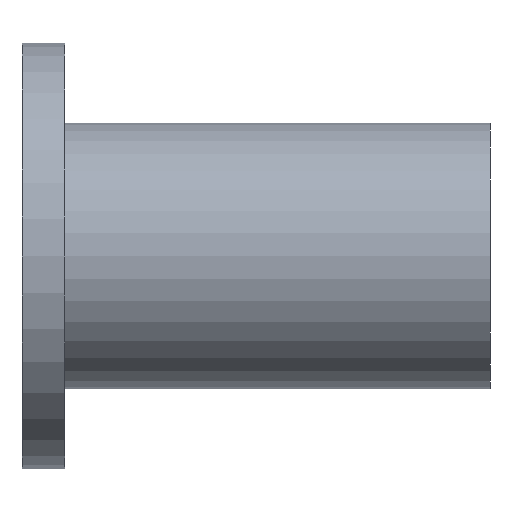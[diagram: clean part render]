
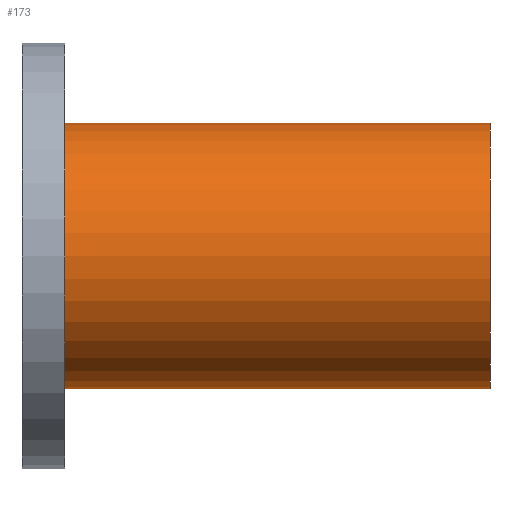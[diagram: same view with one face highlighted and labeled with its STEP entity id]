
A CAD part, left-side view. The second image highlights one B-rep face of the part: STEP entity #173.
In plain terms, the highlighted cylindrical face has radius 2.5 mm (diameter 5 mm), a partial arc.
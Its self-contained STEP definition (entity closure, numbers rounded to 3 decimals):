
#18 = VECTOR ( 'NONE', #157, 1000. ) ;
#24 = VERTEX_POINT ( 'NONE', #134 ) ;
#25 = DIRECTION ( 'NONE',  ( 0., -1., 0. ) ) ;
#27 = ORIENTED_EDGE ( 'NONE', *, *, #182, .F. ) ;
#29 = VERTEX_POINT ( 'NONE', #36 ) ;
#30 = VERTEX_POINT ( 'NONE', #31 ) ;
#31 = CARTESIAN_POINT ( 'NONE',  ( 0., 0., 2.5 ) ) ;
#32 = ORIENTED_EDGE ( 'NONE', *, *, #178, .T. ) ;
#36 = CARTESIAN_POINT ( 'NONE',  ( 0., 8., -2.5 ) ) ;
#37 = FACE_OUTER_BOUND ( 'NONE', #52, .T. ) ;
#45 = VERTEX_POINT ( 'NONE', #132 ) ;
#52 = EDGE_LOOP ( 'NONE', ( #84, #88, #32, #27 ) ) ;
#63 = CARTESIAN_POINT ( 'NONE',  ( 0., 0., 2.5 ) ) ;
#69 = DIRECTION ( 'NONE',  ( 0., 0., -1. ) ) ;
#75 = CARTESIAN_POINT ( 'NONE',  ( 0., 0., 0. ) ) ;
#76 = DIRECTION ( 'NONE',  ( 0., -1., 0. ) ) ;
#77 = CARTESIAN_POINT ( 'NONE',  ( 0., 8., 0. ) ) ;
#78 = DIRECTION ( 'NONE',  ( 0., 0., -1. ) ) ;
#80 = CYLINDRICAL_SURFACE ( 'NONE', #219, 2.5 ) ;
#83 = DIRECTION ( 'NONE',  ( 0., -1., 0. ) ) ;
#84 = ORIENTED_EDGE ( 'NONE', *, *, #188, .F. ) ;
#88 = ORIENTED_EDGE ( 'NONE', *, *, #181, .T. ) ;
#91 = CARTESIAN_POINT ( 'NONE',  ( 0., 0., -2.5 ) ) ;
#95 = DIRECTION ( 'NONE',  ( 0., 0., -1. ) ) ;
#106 = LINE ( 'NONE', #91, #205 ) ;
#109 = DIRECTION ( 'NONE',  ( 0., -1., 0. ) ) ;
#132 = CARTESIAN_POINT ( 'NONE',  ( 0., 0., -2.5 ) ) ;
#134 = CARTESIAN_POINT ( 'NONE',  ( 0., 8., 2.5 ) ) ;
#135 = CARTESIAN_POINT ( 'NONE',  ( 0., 0., 0. ) ) ;
#150 = LINE ( 'NONE', #63, #18 ) ;
#157 = DIRECTION ( 'NONE',  ( 0., -1., 0. ) ) ;
#173 = ADVANCED_FACE ( 'NONE', ( #37 ), #80, .T. ) ;
#178 = EDGE_CURVE ( 'NONE', #29, #45, #106, .T. ) ;
#181 = EDGE_CURVE ( 'NONE', #24, #29, #216, .T. ) ;
#182 = EDGE_CURVE ( 'NONE', #30, #45, #213, .T. ) ;
#188 = EDGE_CURVE ( 'NONE', #24, #30, #150, .T. ) ;
#204 = AXIS2_PLACEMENT_3D ( 'NONE', #77, #83, #78 ) ;
#205 = VECTOR ( 'NONE', #25, 1000. ) ;
#213 = CIRCLE ( 'NONE', #218, 2.5 ) ;
#216 = CIRCLE ( 'NONE', #204, 2.5 ) ;
#218 = AXIS2_PLACEMENT_3D ( 'NONE', #75, #76, #69 ) ;
#219 = AXIS2_PLACEMENT_3D ( 'NONE', #135, #109, #95 ) ;
